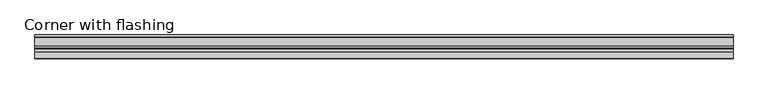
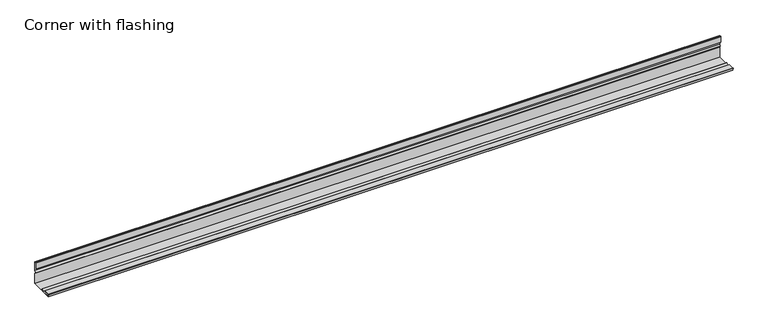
"""IFC4 building model written with IfcOpenShell, lengths in millimetres: beam geometry, TE-V-04_01 External corner with flashing i_BEAM : Corner with flashing."""

from ifc_helpers import new_model, si_unit, frame, origin, place, context, project, spatial, polyline, outline, extrude, source, transform, mapped, element, save


def corner_with_flashing_b1a8f263(model_context):
    return source(origin(), model_context, "Body", "SweptSolid", [
        extrude(outline(polyline([(-171.5212901, -1.7), (-121.0, -1.7), (-121.0, -2.5), (-170.4787099, -2.5), (-166.731344, -16.4853598), (-167.5040847, -16.692415), (-171.5212901, -1.7)])), frame((-4440.9875639, 0.0, 0.0), z_axis=(1.0, 0.0, 0.0), x_axis=(0.0, 1.0, 0.0)), (0.0, 0.0, 1.0), 5700.9875639),
        extrude(outline(polyline([(1.7, 171.5212901), (16.692415, 167.5040847), (16.4853598, 166.731344), (2.5, 170.4787099), (2.5, 121.0), (1.7, 121.0), (1.7, 171.5212901)])), frame((-4440.9875639, 0.0, 0.0), z_axis=(1.0, 0.0, 0.0), x_axis=(0.0, 1.0, 0.0)), (0.0, 0.0, 1.0), 5700.9875639),
        extrude(outline(polyline([(1.6537433, 172.9832161), (18.6540379, 168.4280009), (18.4469826, 167.6552602), (0.6739474, 172.4175307), (1.3986408, 175.122123), (21.4, 169.7627749), (21.4, 94.2901587), (8.8377634, 81.7279221), (21.4, 69.1656854), (21.4, -21.4), (-69.1656854, -21.4), (-81.7279221, -8.8377634), (-94.2901587, -21.4), (-169.7627749, -21.4), (-175.122123, -1.3986408), (-172.4175307, -0.6739474), (-167.6552602, -18.4469826), (-168.4280009, -18.6540379), (-172.9832161, -1.6537433), (-174.1423271, -1.9643262), (-169.1489133, -20.6), (-94.6215295, -20.6), (-81.7279221, -7.7063925), (-68.8343146, -20.6), (20.6, -20.6), (20.6, 68.8343146), (7.7063925, 81.7279221), (20.6, 94.6215295), (20.6, 169.1489133), (1.9643262, 174.1423271), (1.6537433, 172.9832161)])), frame((-4440.9875639, 0.0, 0.0), z_axis=(1.0, 0.0, 0.0), x_axis=(0.0, 1.0, 0.0)), (0.0, 0.0, 1.0), 5700.9875639),
    ])


if __name__ == "__main__":
    model = new_model("IFC4")
    model_context = context("Model", 3, world=origin())
    ifc_project = project(units=[si_unit("LENGTHUNIT", "METRE", prefix="MILLI")], contexts=[model_context])
    site = spatial("IfcSite", under=ifc_project)
    building = spatial("IfcBuilding", under=site)
    placement = place(None, origin())
    corner_with_flashing_shape = corner_with_flashing_b1a8f263(model_context)
    element("IfcBeam", 1, ObjectType="TE-V-04_01 External corner with flashing i_BEAM : Corner with flashing", at=placement, inside=building, context=model_context, shape_type="MappedRepresentation", body=[
        mapped(corner_with_flashing_shape, transform((0.0, 0.0, 0.0), x_axis=(1.0, 0.0, 0.0), y_axis=(0.0, 1.0, 0.0), z_axis=(0.0, 0.0, 1.0))),
    ])
    save(model, "model.ifc")
